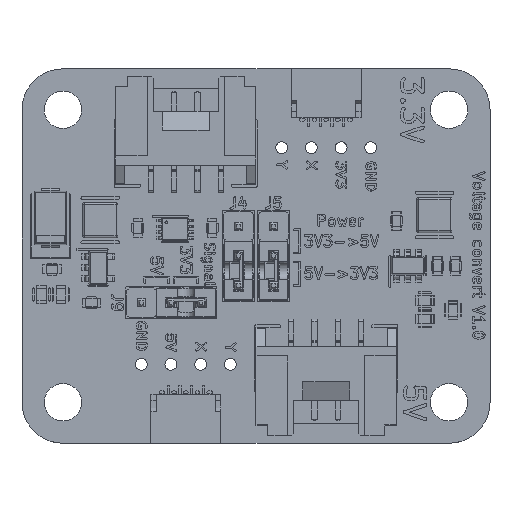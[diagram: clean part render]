
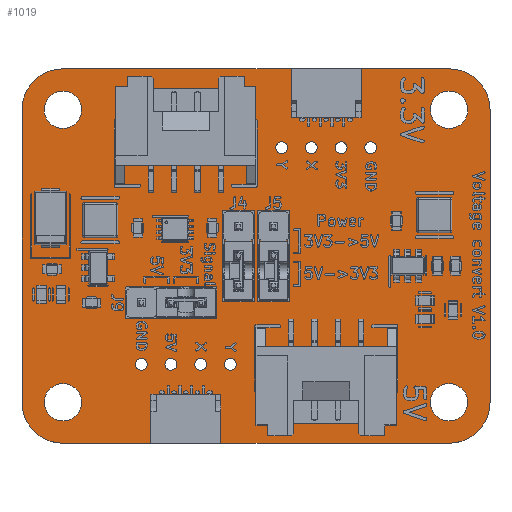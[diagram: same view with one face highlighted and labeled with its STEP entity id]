
A CAD part, top view. The second image highlights one B-rep face of the part: STEP entity #1019.
In plain terms, the highlighted planar face has unit normal (0, 0, 1).
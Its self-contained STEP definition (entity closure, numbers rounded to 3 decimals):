
#75 = VERTEX_POINT('',#76);
#76 = CARTESIAN_POINT('',(40.,-3.5,0.));
#93 = VERTEX_POINT('',#94);
#94 = CARTESIAN_POINT('',(40.,-28.5,0.));
#100 = EDGE_CURVE('',#75,#93,#101,.T.);
#101 = LINE('',#102,#103);
#102 = CARTESIAN_POINT('',(40.,-3.5,0.));
#103 = VECTOR('',#104,1.);
#104 = DIRECTION('',(0.,-1.,0.));
#115 = VERTEX_POINT('',#116);
#116 = CARTESIAN_POINT('',(36.5,0.,0.));
#132 = EDGE_CURVE('',#115,#75,#133,.T.);
#133 = CIRCLE('',#134,3.5);
#134 = AXIS2_PLACEMENT_3D('',#135,#136,#137);
#135 = CARTESIAN_POINT('',(36.5,-3.5,0.));
#136 = DIRECTION('',(0.,0.,-1.));
#137 = DIRECTION('',(0.,1.,0.));
#158 = VERTEX_POINT('',#159);
#159 = CARTESIAN_POINT('',(36.5,-32.,0.));
#165 = EDGE_CURVE('',#93,#158,#166,.T.);
#166 = CIRCLE('',#167,3.5);
#167 = AXIS2_PLACEMENT_3D('',#168,#169,#170);
#168 = CARTESIAN_POINT('',(36.5,-28.5,0.));
#169 = DIRECTION('',(0.,0.,-1.));
#170 = DIRECTION('',(1.,0.,0.));
#181 = VERTEX_POINT('',#182);
#182 = CARTESIAN_POINT('',(3.5,0.,0.));
#197 = EDGE_CURVE('',#181,#115,#198,.T.);
#198 = LINE('',#199,#200);
#199 = CARTESIAN_POINT('',(3.5,0.,0.));
#200 = VECTOR('',#201,1.);
#201 = DIRECTION('',(1.,0.,0.));
#221 = VERTEX_POINT('',#222);
#222 = CARTESIAN_POINT('',(3.5,-32.,0.));
#228 = EDGE_CURVE('',#158,#221,#229,.T.);
#229 = LINE('',#230,#231);
#230 = CARTESIAN_POINT('',(36.5,-32.,0.));
#231 = VECTOR('',#232,1.);
#232 = DIRECTION('',(-1.,0.,0.));
#243 = VERTEX_POINT('',#244);
#244 = CARTESIAN_POINT('',(0.,-3.5,0.));
#260 = EDGE_CURVE('',#243,#181,#261,.T.);
#261 = CIRCLE('',#262,3.5);
#262 = AXIS2_PLACEMENT_3D('',#263,#264,#265);
#263 = CARTESIAN_POINT('',(3.5,-3.5,0.));
#264 = DIRECTION('',(0.,0.,-1.));
#265 = DIRECTION('',(-1.,0.,-0.));
#286 = VERTEX_POINT('',#287);
#287 = CARTESIAN_POINT('',(0.,-28.5,0.));
#293 = EDGE_CURVE('',#221,#286,#294,.T.);
#294 = CIRCLE('',#295,3.5);
#295 = AXIS2_PLACEMENT_3D('',#296,#297,#298);
#296 = CARTESIAN_POINT('',(3.5,-28.5,0.));
#297 = DIRECTION('',(0.,0.,-1.));
#298 = DIRECTION('',(0.,-1.,0.));
#316 = EDGE_CURVE('',#286,#243,#317,.T.);
#317 = LINE('',#318,#319);
#318 = CARTESIAN_POINT('',(0.,-28.5,0.));
#319 = VECTOR('',#320,1.);
#320 = DIRECTION('',(0.,1.,0.));
#331 = VERTEX_POINT('',#332);
#332 = CARTESIAN_POINT('',(38.1,-28.5,0.));
#348 = EDGE_CURVE('',#331,#331,#349,.T.);
#349 = CIRCLE('',#350,1.6);
#350 = AXIS2_PLACEMENT_3D('',#351,#352,#353);
#351 = CARTESIAN_POINT('',(36.5,-28.5,0.));
#352 = DIRECTION('',(0.,0.,1.));
#353 = DIRECTION('',(1.,0.,-0.));
#364 = VERTEX_POINT('',#365);
#365 = CARTESIAN_POINT('',(22.1,-18.54,0.));
#381 = EDGE_CURVE('',#364,#364,#382,.T.);
#382 = CIRCLE('',#383,0.6);
#383 = AXIS2_PLACEMENT_3D('',#384,#385,#386);
#384 = CARTESIAN_POINT('',(21.5,-18.54,0.));
#385 = DIRECTION('',(0.,0.,1.));
#386 = DIRECTION('',(1.,0.,-0.));
#397 = VERTEX_POINT('',#398);
#398 = CARTESIAN_POINT('',(18.32,-25.25,0.));
#414 = EDGE_CURVE('',#397,#397,#415,.T.);
#415 = CIRCLE('',#416,0.51);
#416 = AXIS2_PLACEMENT_3D('',#417,#418,#419);
#417 = CARTESIAN_POINT('',(17.81,-25.25,0.));
#418 = DIRECTION('',(0.,0.,1.));
#419 = DIRECTION('',(1.,0.,-0.));
#430 = VERTEX_POINT('',#431);
#431 = CARTESIAN_POINT('',(15.78,-25.25,0.));
#447 = EDGE_CURVE('',#430,#430,#448,.T.);
#448 = CIRCLE('',#449,0.51);
#449 = AXIS2_PLACEMENT_3D('',#450,#451,#452);
#450 = CARTESIAN_POINT('',(15.27,-25.25,0.));
#451 = DIRECTION('',(0.,0.,1.));
#452 = DIRECTION('',(1.,0.,-0.));
#463 = VERTEX_POINT('',#464);
#464 = CARTESIAN_POINT('',(13.24,-25.25,0.));
#480 = EDGE_CURVE('',#463,#463,#481,.T.);
#481 = CIRCLE('',#482,0.51);
#482 = AXIS2_PLACEMENT_3D('',#483,#484,#485);
#483 = CARTESIAN_POINT('',(12.73,-25.25,0.));
#484 = DIRECTION('',(0.,0.,1.));
#485 = DIRECTION('',(1.,0.,-0.));
#496 = VERTEX_POINT('',#497);
#497 = CARTESIAN_POINT('',(5.1,-28.5,0.));
#513 = EDGE_CURVE('',#496,#496,#514,.T.);
#514 = CIRCLE('',#515,1.6);
#515 = AXIS2_PLACEMENT_3D('',#516,#517,#518);
#516 = CARTESIAN_POINT('',(3.5,-28.5,0.));
#517 = DIRECTION('',(0.,0.,1.));
#518 = DIRECTION('',(1.,0.,-0.));
#529 = VERTEX_POINT('',#530);
#530 = CARTESIAN_POINT('',(10.7,-25.25,0.));
#546 = EDGE_CURVE('',#529,#529,#547,.T.);
#547 = CIRCLE('',#548,0.51);
#548 = AXIS2_PLACEMENT_3D('',#549,#550,#551);
#549 = CARTESIAN_POINT('',(10.19,-25.25,0.));
#550 = DIRECTION('',(0.,0.,1.));
#551 = DIRECTION('',(1.,0.,-0.));
#562 = VERTEX_POINT('',#563);
#563 = CARTESIAN_POINT('',(15.89,-20.,0.));
#579 = EDGE_CURVE('',#562,#562,#580,.T.);
#580 = CIRCLE('',#581,0.6);
#581 = AXIS2_PLACEMENT_3D('',#582,#583,#584);
#582 = CARTESIAN_POINT('',(15.29,-20.,0.));
#583 = DIRECTION('',(0.,0.,1.));
#584 = DIRECTION('',(1.,0.,-0.));
#595 = VERTEX_POINT('',#596);
#596 = CARTESIAN_POINT('',(13.35,-20.,0.));
#612 = EDGE_CURVE('',#595,#595,#613,.T.);
#613 = CIRCLE('',#614,0.6);
#614 = AXIS2_PLACEMENT_3D('',#615,#616,#617);
#615 = CARTESIAN_POINT('',(12.75,-20.,0.));
#616 = DIRECTION('',(0.,0.,1.));
#617 = DIRECTION('',(1.,0.,-0.));
#628 = VERTEX_POINT('',#629);
#629 = CARTESIAN_POINT('',(19.1,-18.54,0.));
#645 = EDGE_CURVE('',#628,#628,#646,.T.);
#646 = CIRCLE('',#647,0.6);
#647 = AXIS2_PLACEMENT_3D('',#648,#649,#650);
#648 = CARTESIAN_POINT('',(18.5,-18.54,0.));
#649 = DIRECTION('',(0.,0.,1.));
#650 = DIRECTION('',(1.,0.,-0.));
#661 = VERTEX_POINT('',#662);
#662 = CARTESIAN_POINT('',(10.81,-20.,0.));
#678 = EDGE_CURVE('',#661,#661,#679,.T.);
#679 = CIRCLE('',#680,0.6);
#680 = AXIS2_PLACEMENT_3D('',#681,#682,#683);
#681 = CARTESIAN_POINT('',(10.21,-20.,0.));
#682 = DIRECTION('',(0.,0.,1.));
#683 = DIRECTION('',(1.,0.,-0.));
#694 = VERTEX_POINT('',#695);
#695 = CARTESIAN_POINT('',(22.1,-16.,0.));
#711 = EDGE_CURVE('',#694,#694,#712,.T.);
#712 = CIRCLE('',#713,0.6);
#713 = AXIS2_PLACEMENT_3D('',#714,#715,#716);
#714 = CARTESIAN_POINT('',(21.5,-16.,0.));
#715 = DIRECTION('',(0.,0.,1.));
#716 = DIRECTION('',(1.,0.,-0.));
#727 = VERTEX_POINT('',#728);
#728 = CARTESIAN_POINT('',(22.1,-13.46,0.));
#744 = EDGE_CURVE('',#727,#727,#745,.T.);
#745 = CIRCLE('',#746,0.6);
#746 = AXIS2_PLACEMENT_3D('',#747,#748,#749);
#747 = CARTESIAN_POINT('',(21.5,-13.46,0.));
#748 = DIRECTION('',(0.,0.,1.));
#749 = DIRECTION('',(1.,0.,-0.));
#760 = VERTEX_POINT('',#761);
#761 = CARTESIAN_POINT('',(30.32,-6.75,0.));
#777 = EDGE_CURVE('',#760,#760,#778,.T.);
#778 = CIRCLE('',#779,0.51);
#779 = AXIS2_PLACEMENT_3D('',#780,#781,#782);
#780 = CARTESIAN_POINT('',(29.81,-6.75,0.));
#781 = DIRECTION('',(0.,0.,1.));
#782 = DIRECTION('',(1.,0.,-0.));
#793 = VERTEX_POINT('',#794);
#794 = CARTESIAN_POINT('',(38.1,-3.5,0.));
#810 = EDGE_CURVE('',#793,#793,#811,.T.);
#811 = CIRCLE('',#812,1.6);
#812 = AXIS2_PLACEMENT_3D('',#813,#814,#815);
#813 = CARTESIAN_POINT('',(36.5,-3.5,0.));
#814 = DIRECTION('',(0.,0.,1.));
#815 = DIRECTION('',(1.,0.,-0.));
#826 = VERTEX_POINT('',#827);
#827 = CARTESIAN_POINT('',(27.78,-6.75,0.));
#843 = EDGE_CURVE('',#826,#826,#844,.T.);
#844 = CIRCLE('',#845,0.51);
#845 = AXIS2_PLACEMENT_3D('',#846,#847,#848);
#846 = CARTESIAN_POINT('',(27.27,-6.75,0.));
#847 = DIRECTION('',(0.,0.,1.));
#848 = DIRECTION('',(1.,0.,-0.));
#859 = VERTEX_POINT('',#860);
#860 = CARTESIAN_POINT('',(25.24,-6.75,0.));
#876 = EDGE_CURVE('',#859,#859,#877,.T.);
#877 = CIRCLE('',#878,0.51);
#878 = AXIS2_PLACEMENT_3D('',#879,#880,#881);
#879 = CARTESIAN_POINT('',(24.73,-6.75,0.));
#880 = DIRECTION('',(0.,0.,1.));
#881 = DIRECTION('',(1.,0.,-0.));
#892 = VERTEX_POINT('',#893);
#893 = CARTESIAN_POINT('',(22.7,-6.75,0.));
#909 = EDGE_CURVE('',#892,#892,#910,.T.);
#910 = CIRCLE('',#911,0.51);
#911 = AXIS2_PLACEMENT_3D('',#912,#913,#914);
#912 = CARTESIAN_POINT('',(22.19,-6.75,0.));
#913 = DIRECTION('',(0.,0.,1.));
#914 = DIRECTION('',(1.,0.,-0.));
#925 = VERTEX_POINT('',#926);
#926 = CARTESIAN_POINT('',(19.1,-16.,0.));
#942 = EDGE_CURVE('',#925,#925,#943,.T.);
#943 = CIRCLE('',#944,0.6);
#944 = AXIS2_PLACEMENT_3D('',#945,#946,#947);
#945 = CARTESIAN_POINT('',(18.5,-16.,0.));
#946 = DIRECTION('',(0.,0.,1.));
#947 = DIRECTION('',(1.,0.,-0.));
#958 = VERTEX_POINT('',#959);
#959 = CARTESIAN_POINT('',(19.1,-13.46,0.));
#975 = EDGE_CURVE('',#958,#958,#976,.T.);
#976 = CIRCLE('',#977,0.6);
#977 = AXIS2_PLACEMENT_3D('',#978,#979,#980);
#978 = CARTESIAN_POINT('',(18.5,-13.46,0.));
#979 = DIRECTION('',(0.,0.,1.));
#980 = DIRECTION('',(1.,0.,-0.));
#991 = VERTEX_POINT('',#992);
#992 = CARTESIAN_POINT('',(5.1,-3.5,0.));
#1008 = EDGE_CURVE('',#991,#991,#1009,.T.);
#1009 = CIRCLE('',#1010,1.6);
#1010 = AXIS2_PLACEMENT_3D('',#1011,#1012,#1013);
#1011 = CARTESIAN_POINT('',(3.5,-3.5,0.));
#1012 = DIRECTION('',(0.,0.,1.));
#1013 = DIRECTION('',(1.,0.,-0.));
#1019 = ADVANCED_FACE('',(#1020,#1030,#1033,#1036,#1039,#1042,#1045,
    #1048,#1051,#1054,#1057,#1060,#1063,#1066,#1069,#1072,#1075,#1078,
    #1081,#1084,#1087,#1090),#1093,.F.);
#1020 = FACE_BOUND('',#1021,.F.);
#1021 = EDGE_LOOP('',(#1022,#1023,#1024,#1025,#1026,#1027,#1028,#1029));
#1022 = ORIENTED_EDGE('',*,*,#100,.T.);
#1023 = ORIENTED_EDGE('',*,*,#165,.T.);
#1024 = ORIENTED_EDGE('',*,*,#228,.T.);
#1025 = ORIENTED_EDGE('',*,*,#293,.T.);
#1026 = ORIENTED_EDGE('',*,*,#316,.T.);
#1027 = ORIENTED_EDGE('',*,*,#260,.T.);
#1028 = ORIENTED_EDGE('',*,*,#197,.T.);
#1029 = ORIENTED_EDGE('',*,*,#132,.T.);
#1030 = FACE_BOUND('',#1031,.F.);
#1031 = EDGE_LOOP('',(#1032));
#1032 = ORIENTED_EDGE('',*,*,#348,.T.);
#1033 = FACE_BOUND('',#1034,.F.);
#1034 = EDGE_LOOP('',(#1035));
#1035 = ORIENTED_EDGE('',*,*,#381,.T.);
#1036 = FACE_BOUND('',#1037,.F.);
#1037 = EDGE_LOOP('',(#1038));
#1038 = ORIENTED_EDGE('',*,*,#414,.T.);
#1039 = FACE_BOUND('',#1040,.F.);
#1040 = EDGE_LOOP('',(#1041));
#1041 = ORIENTED_EDGE('',*,*,#447,.T.);
#1042 = FACE_BOUND('',#1043,.F.);
#1043 = EDGE_LOOP('',(#1044));
#1044 = ORIENTED_EDGE('',*,*,#480,.T.);
#1045 = FACE_BOUND('',#1046,.F.);
#1046 = EDGE_LOOP('',(#1047));
#1047 = ORIENTED_EDGE('',*,*,#513,.T.);
#1048 = FACE_BOUND('',#1049,.F.);
#1049 = EDGE_LOOP('',(#1050));
#1050 = ORIENTED_EDGE('',*,*,#546,.T.);
#1051 = FACE_BOUND('',#1052,.F.);
#1052 = EDGE_LOOP('',(#1053));
#1053 = ORIENTED_EDGE('',*,*,#579,.T.);
#1054 = FACE_BOUND('',#1055,.F.);
#1055 = EDGE_LOOP('',(#1056));
#1056 = ORIENTED_EDGE('',*,*,#612,.T.);
#1057 = FACE_BOUND('',#1058,.F.);
#1058 = EDGE_LOOP('',(#1059));
#1059 = ORIENTED_EDGE('',*,*,#645,.T.);
#1060 = FACE_BOUND('',#1061,.F.);
#1061 = EDGE_LOOP('',(#1062));
#1062 = ORIENTED_EDGE('',*,*,#678,.T.);
#1063 = FACE_BOUND('',#1064,.F.);
#1064 = EDGE_LOOP('',(#1065));
#1065 = ORIENTED_EDGE('',*,*,#711,.T.);
#1066 = FACE_BOUND('',#1067,.F.);
#1067 = EDGE_LOOP('',(#1068));
#1068 = ORIENTED_EDGE('',*,*,#744,.T.);
#1069 = FACE_BOUND('',#1070,.F.);
#1070 = EDGE_LOOP('',(#1071));
#1071 = ORIENTED_EDGE('',*,*,#777,.T.);
#1072 = FACE_BOUND('',#1073,.F.);
#1073 = EDGE_LOOP('',(#1074));
#1074 = ORIENTED_EDGE('',*,*,#810,.T.);
#1075 = FACE_BOUND('',#1076,.F.);
#1076 = EDGE_LOOP('',(#1077));
#1077 = ORIENTED_EDGE('',*,*,#843,.T.);
#1078 = FACE_BOUND('',#1079,.F.);
#1079 = EDGE_LOOP('',(#1080));
#1080 = ORIENTED_EDGE('',*,*,#876,.T.);
#1081 = FACE_BOUND('',#1082,.F.);
#1082 = EDGE_LOOP('',(#1083));
#1083 = ORIENTED_EDGE('',*,*,#909,.T.);
#1084 = FACE_BOUND('',#1085,.F.);
#1085 = EDGE_LOOP('',(#1086));
#1086 = ORIENTED_EDGE('',*,*,#942,.T.);
#1087 = FACE_BOUND('',#1088,.F.);
#1088 = EDGE_LOOP('',(#1089));
#1089 = ORIENTED_EDGE('',*,*,#975,.T.);
#1090 = FACE_BOUND('',#1091,.F.);
#1091 = EDGE_LOOP('',(#1092));
#1092 = ORIENTED_EDGE('',*,*,#1008,.T.);
#1093 = PLANE('',#1094);
#1094 = AXIS2_PLACEMENT_3D('',#1095,#1096,#1097);
#1095 = CARTESIAN_POINT('',(20.,-16.,0.));
#1096 = DIRECTION('',(-0.,-0.,-1.));
#1097 = DIRECTION('',(-1.,0.,0.));
